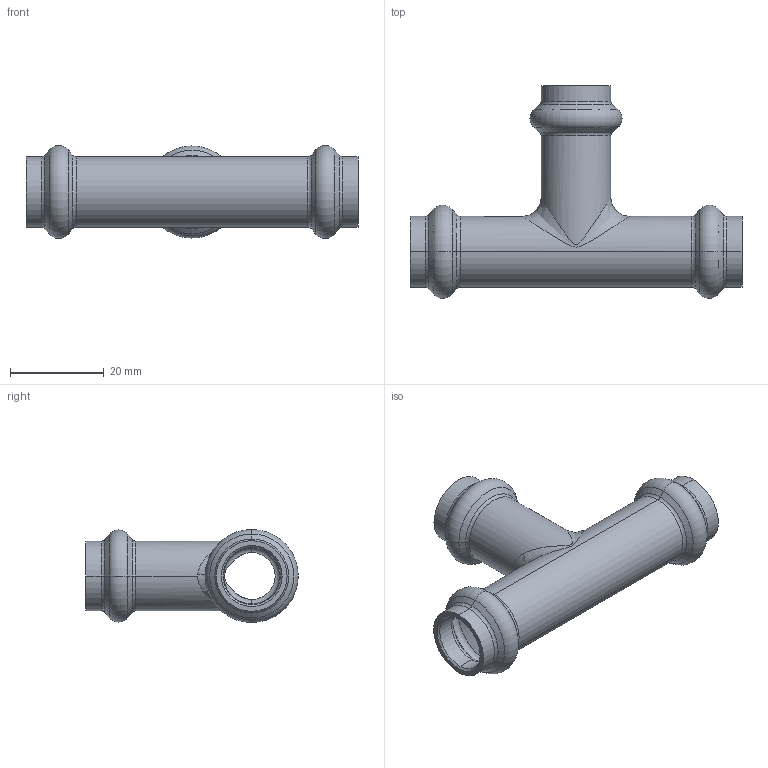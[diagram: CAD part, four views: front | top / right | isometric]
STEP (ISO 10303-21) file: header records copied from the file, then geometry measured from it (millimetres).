
FILE_DESCRIPTION (( 'STEP AP203' ), '1' );
FILE_NAME ('SP5130 Ø12.STEP', '2017-04-24T12:14:17', ( '' ), ( '' ), 'SwSTEP 2.0', 'SolidWorks 2016', '' );
FILE_SCHEMA (( 'CONFIG_CONTROL_DESIGN' ));
Length unit declared in the file: millimetre
Products named in the file (1): SP5130 ﾘ12
Bounding box: 71 x 45.45 x 19.9 mm (x, y, z)
Volume: 7654.5 mm3; surface area: 9323.9 mm2
Topology: 1 solids, 1 shells, 111 faces, 232 edges, 126 vertices
Faces by surface type: torus 40, cylinder 31, cone 30, plane 6, bspline 4
Entity records: 4222 total; most frequent: CARTESIAN_POINT 1721, DIRECTION 588, ORIENTED_EDGE 464, AXIS2_PLACEMENT_3D 264, EDGE_CURVE 232, CIRCLE 156, VERTEX_POINT 126, EDGE_LOOP 118
